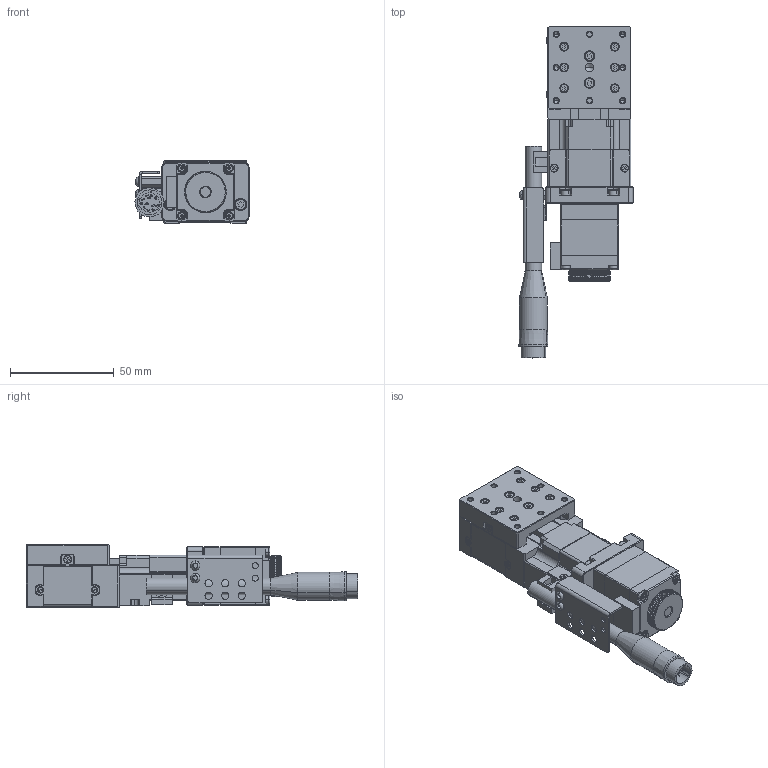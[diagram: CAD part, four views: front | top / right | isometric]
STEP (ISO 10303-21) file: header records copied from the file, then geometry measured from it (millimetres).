
FILE_DESCRIPTION (( 'STEP AP214' ), '1' );
FILE_NAME ('TXA4015B-L1-M28L.STEP', '2025-01-03T11:34:24', ( '' ), ( '' ), 'SwSTEP 2.0', 'SolidWorks 2020', '' );
FILE_SCHEMA (( 'AUTOMOTIVE_DESIGN' ));
Length unit declared in the file: millimetre
Products named in the file (1): TXA4015B-L1-M28L
Bounding box: 54.99 x 160 x 30 mm (x, y, z)
Volume: 101362.2 mm3; surface area: 55813.6 mm2
Topology: 63 solids, 63 shells, 2926 faces, 7221 edges, 4516 vertices
Faces by surface type: plane 1549, cylinder 725, cone 354, bspline 154, torus 140, sphere 4
Entity records: 126463 total; most frequent: CARTESIAN_POINT 24560, ORIENTED_EDGE 14306, DIRECTION 14055, EDGE_CURVE 7153, AXIS2_PLACEMENT_3D 4823, VERTEX_POINT 4516, LINE 4409, VECTOR 4409
